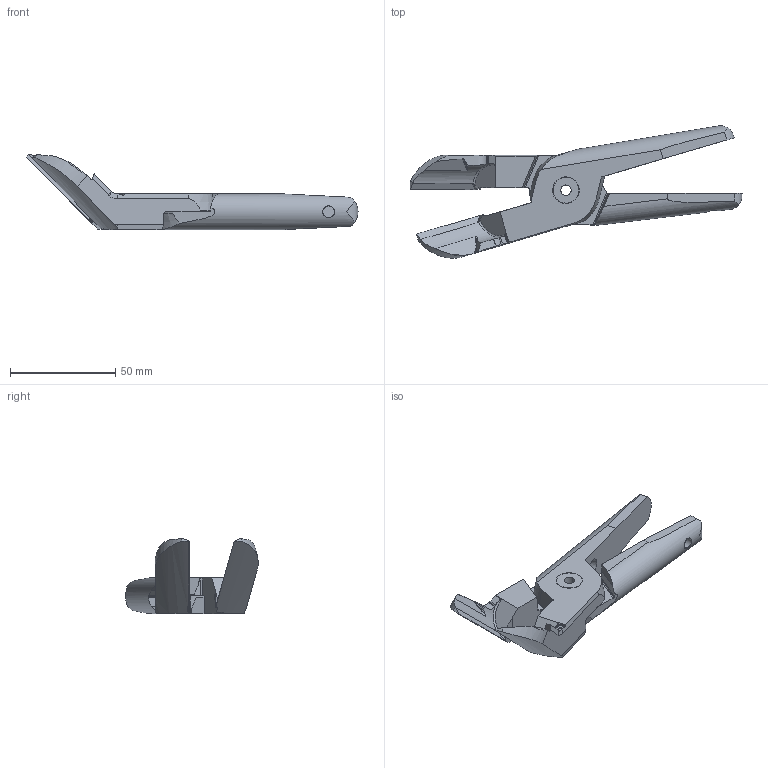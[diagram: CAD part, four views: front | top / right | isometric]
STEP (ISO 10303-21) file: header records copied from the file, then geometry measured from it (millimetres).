
FILE_DESCRIPTION((''),'2;1');
FILE_NAME('GPT-30-LA45.stp','2007-02-28T13:49:40',(''),(''),'Mechanical Desktop 2005','Mechanical Desktop 2005',', , ');
FILE_SCHEMA(('CONFIG_CONTROL_DESIGN'));
Length unit declared in the file: inch
Products named in the file (4): 30LA45; 30DAS; 30DAO; 30PRIVIT
Assembly tree (3 placements, depth 2):
  30LA45
    30DAS
    30DAO
    30PRIVIT
Bounding box: 158.05 x 63.03 x 35.84 mm (x, y, z)
Volume: 51968.2 mm3; surface area: 20400.6 mm2
Topology: 3 solids, 3 shells, 173 faces, 483 edges, 313 vertices
Faces by surface type: plane 74, cylinder 68, cone 22, bspline 9
Entity records: 6272 total; most frequent: CARTESIAN_POINT 1760, ORIENTED_EDGE 954, DIRECTION 883, EDGE_CURVE 477, AXIS2_PLACEMENT_3D 319, VERTEX_POINT 313, VECTOR 245, LINE 245
